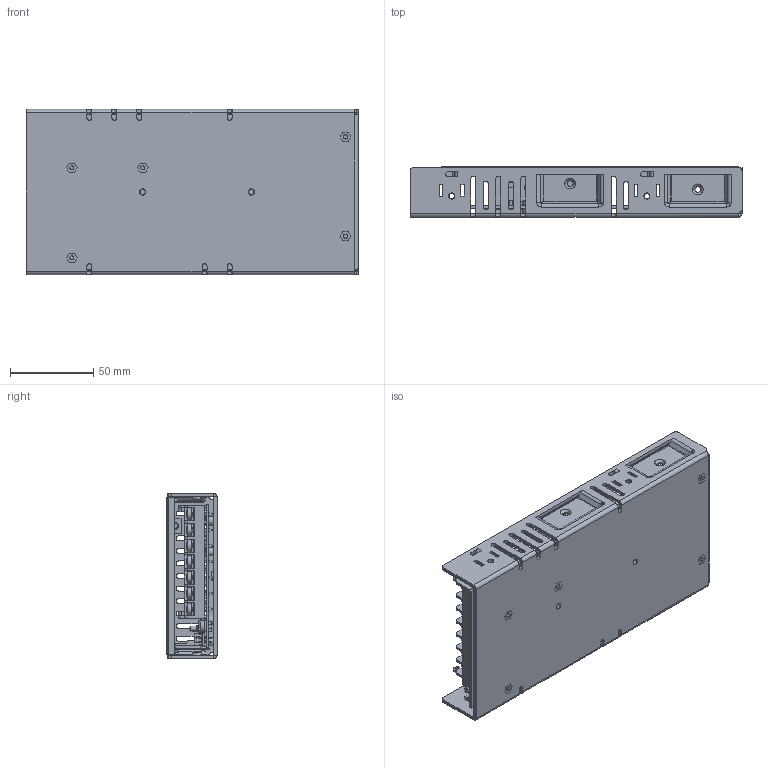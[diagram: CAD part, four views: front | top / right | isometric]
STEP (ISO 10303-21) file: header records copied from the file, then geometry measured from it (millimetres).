
FILE_DESCRIPTION (( 'STEP AP214' ), '1' );
FILE_NAME ('LBA150.STEP', '2025-12-17T08:23:07', ( '' ), ( '' ), 'SwSTEP 2.0', 'SolidWorks 2024', '' );
FILE_SCHEMA (( 'AUTOMOTIVE_DESIGN' ));
Length unit declared in the file: millimetre
Products named in the file (20): XH2.54-2P; cross recessed small pan head screws gb_GB_CROSS_SCREWS_TYPE3 M4X5-5-N; FESP08J(______; __________; RSP-150____-0; LBA150; 9.5____7P____________3.8mm__; ______; cross recessed small pan head screws gb_GB_CROSS_SCREWS_TYPE3 M3X8-8-N; M3______; M3X7________; LBA150_1; M3 ________; 9.5________7P; cross recessed countersunk head screws gb1_GB_CROSS_SCREWS_TYPE4 M3X5-3.35  H type-N; 38x29______; __________3.8mm__; LBA150-R3 V1.5 PCB; RSP-150____; ____
Assembly tree (43 placements, depth 5):
  LBA150
    LBA150_1
      9.5____7P____________3.8mm__
        9.5________7P
        __________3.8mm__  x7
        ____  x7
        cross recessed small pan head screws gb_GB_CROSS_SCREWS_TYPE3 M4X5-5-N  x7
      M3 ________  x5
        M3X7________
          M3______
          cross recessed small pan head screws gb_GB_CROSS_SCREWS_TYPE3 M3X8-8-N
      RSP-150____
      RSP-150____-0
      cross recessed countersunk head screws gb1_GB_CROSS_SCREWS_TYPE4 M3X5-3.35  H type-N  x2
      LBA150-R3 V1.5 PCB
      FESP08J(______  x2
      38x29______
      ______
      __________
      XH2.54-2P
Bounding box: 199 x 30 x 99 mm (x, y, z)
Volume: 106827.6 mm3; surface area: 150284.3 mm2
Topology: 43 solids, 43 shells, 4836 faces, 13735 edges, 9040 vertices
Faces by surface type: plane 4060, cylinder 607, torus 57, sphere 50, bspline 32, cone 30
Entity records: 138751 total; most frequent: CARTESIAN_POINT 25669, ORIENTED_EDGE 24064, DIRECTION 21234, EDGE_CURVE 12032, LINE 10954, VECTOR 10954, VERTEX_POINT 7947, EDGE_LOOP 5357
